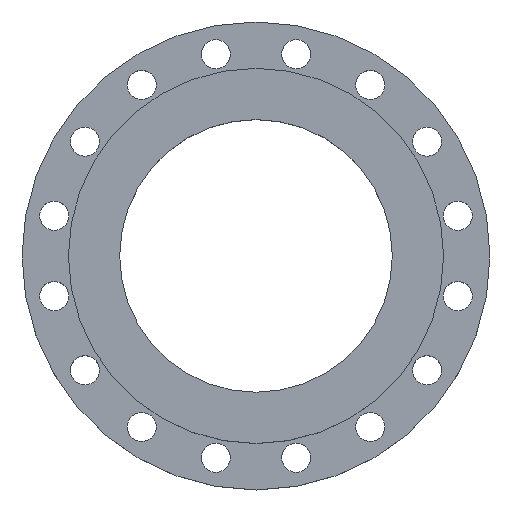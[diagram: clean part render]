
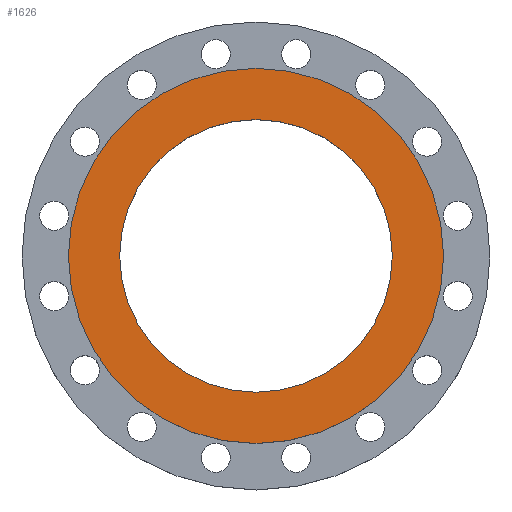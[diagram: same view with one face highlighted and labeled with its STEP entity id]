
A CAD part, top view. The second image highlights one B-rep face of the part: STEP entity #1626.
In plain terms, the highlighted planar face has unit normal (0, 0, 1).
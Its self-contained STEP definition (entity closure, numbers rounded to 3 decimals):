
#11 = PLANE ( 'NONE',  #1050 ) ;
#21 = CARTESIAN_POINT ( 'NONE',  ( 169., 0., 36. ) ) ;
#33 = DIRECTION ( 'NONE',  ( 1., 0., 0. ) ) ;
#34 = DIRECTION ( 'NONE',  ( 0., 0., 1. ) ) ;
#35 = CARTESIAN_POINT ( 'NONE',  ( 0., 0., 36. ) ) ;
#96 = DIRECTION ( 'NONE',  ( 1., 0., 0. ) ) ;
#98 = DIRECTION ( 'NONE',  ( 0., 0., 1. ) ) ;
#101 = CARTESIAN_POINT ( 'NONE',  ( 0., 0., 36. ) ) ;
#160 = VERTEX_POINT ( 'NONE', #903 ) ;
#192 = CARTESIAN_POINT ( 'NONE',  ( 232.5, 0., 36. ) ) ;
#228 = DIRECTION ( 'NONE',  ( 0., 0., 1. ) ) ;
#229 = DIRECTION ( 'NONE',  ( 1., 0., 0. ) ) ;
#232 = CARTESIAN_POINT ( 'NONE',  ( 0., 0., 36. ) ) ;
#451 = DIRECTION ( 'NONE',  ( 1., 0., 0. ) ) ;
#452 = DIRECTION ( 'NONE',  ( 0., 0., 1. ) ) ;
#453 = CARTESIAN_POINT ( 'NONE',  ( 0., 0., 36. ) ) ;
#903 = CARTESIAN_POINT ( 'NONE',  ( -169., 0., 36. ) ) ;
#954 = ORIENTED_EDGE ( 'NONE', *, *, #1396, .T. ) ;
#964 = FACE_BOUND ( 'NONE', #1594, .T. ) ;
#1006 = EDGE_CURVE ( 'NONE', #160, #1406, #1568, .T. ) ;
#1050 = AXIS2_PLACEMENT_3D ( 'NONE', #1585, #1774, #1397 ) ;
#1254 = ORIENTED_EDGE ( 'NONE', *, *, #1264, .F. ) ;
#1264 = EDGE_CURVE ( 'NONE', #1406, #160, #1711, .T. ) ;
#1282 = VERTEX_POINT ( 'NONE', #192 ) ;
#1351 = AXIS2_PLACEMENT_3D ( 'NONE', #35, #34, #33 ) ;
#1363 = CIRCLE ( 'NONE', #1351, 232.5 ) ;
#1382 = EDGE_CURVE ( 'NONE', #1561, #1282, #1387, .T. ) ;
#1384 = AXIS2_PLACEMENT_3D ( 'NONE', #101, #98, #96 ) ;
#1387 = CIRCLE ( 'NONE', #1384, 232.5 ) ;
#1396 = EDGE_CURVE ( 'NONE', #1282, #1561, #1363, .T. ) ;
#1397 = DIRECTION ( 'NONE',  ( 1., 0., 0. ) ) ;
#1406 = VERTEX_POINT ( 'NONE', #21 ) ;
#1435 = ORIENTED_EDGE ( 'NONE', *, *, #1006, .F. ) ;
#1486 = FACE_OUTER_BOUND ( 'NONE', #1582, .T. ) ;
#1561 = VERTEX_POINT ( 'NONE', #1787 ) ;
#1568 = CIRCLE ( 'NONE', #1793, 169. ) ;
#1582 = EDGE_LOOP ( 'NONE', ( #954, #1632 ) ) ;
#1585 = CARTESIAN_POINT ( 'NONE',  ( 169., 0., 36. ) ) ;
#1594 = EDGE_LOOP ( 'NONE', ( #1254, #1435 ) ) ;
#1626 = ADVANCED_FACE ( 'NONE', ( #1486, #964 ), #11, .T. ) ;
#1632 = ORIENTED_EDGE ( 'NONE', *, *, #1382, .T. ) ;
#1711 = CIRCLE ( 'NONE', #1746, 169. ) ;
#1746 = AXIS2_PLACEMENT_3D ( 'NONE', #232, #228, #229 ) ;
#1774 = DIRECTION ( 'NONE',  ( 0., 0., 1. ) ) ;
#1787 = CARTESIAN_POINT ( 'NONE',  ( -232.5, 0., 36. ) ) ;
#1793 = AXIS2_PLACEMENT_3D ( 'NONE', #453, #452, #451 ) ;
